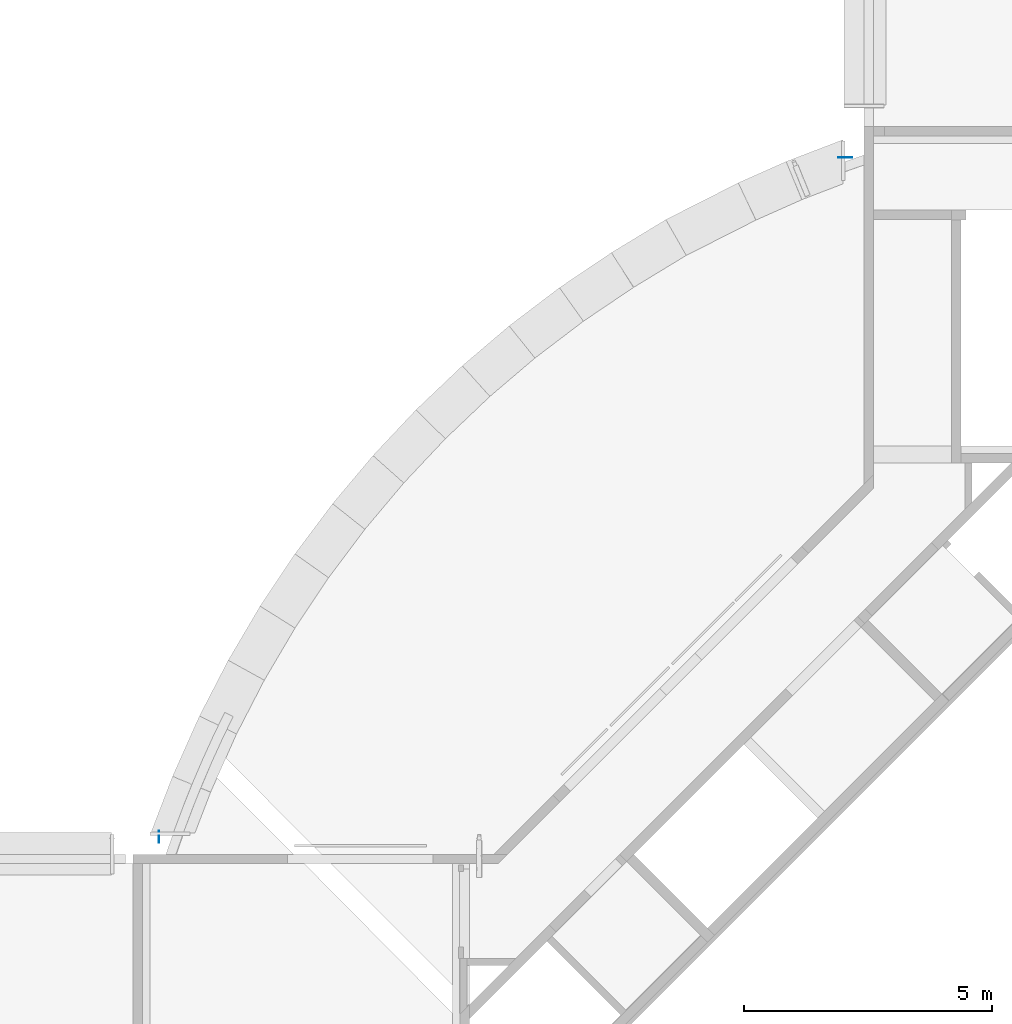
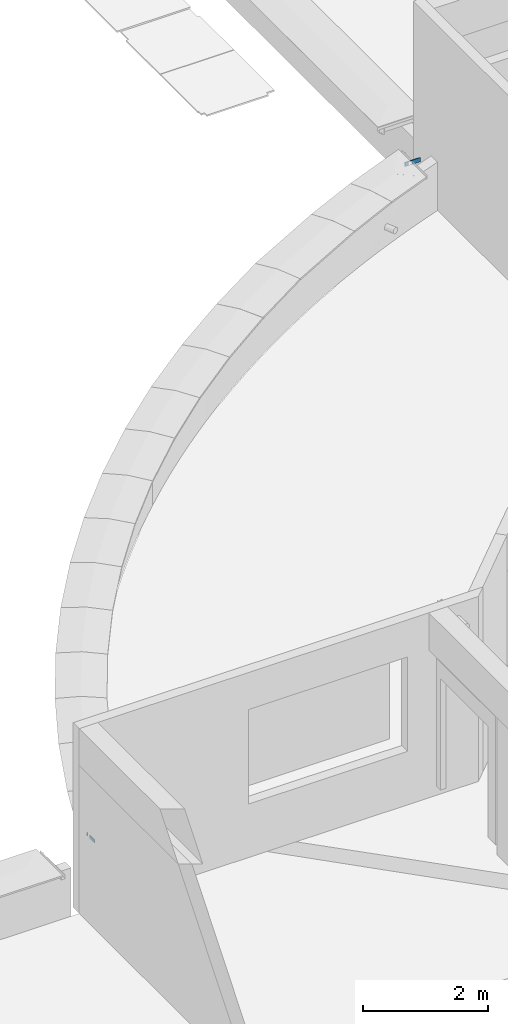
# One storey, part 29 of 38: 2 walls.
"""IFC4X3_ADD2 building model written with IfcOpenShell, lengths in millimetres."""

from ifc_helpers import new_model, si_unit, direction, frame, origin_with_axes, place, context, subcontext, project, spatial, polygons, source, transform, mapped, material, type_object, type_shapes, element, save


model = new_model("IFC4X3_ADD2")

# Units and contexts
model_context = context("Model", 3, precision=1e-05, world=origin_with_axes(), true_north=direction((0.0, 1.0)))
body_context = subcontext(model_context, "Body", "Model", "MODEL_VIEW")
ifc_project = project(units=[si_unit("LENGTHUNIT", "METRE", prefix="MILLI"), si_unit("AREAUNIT", "SQUARE_METRE"), si_unit("VOLUMEUNIT", "CUBIC_METRE"), si_unit("PLANEANGLEUNIT", "RADIAN"), si_unit("TIMEUNIT", "SECOND"), si_unit("MASSUNIT", "GRAM")], contexts=[model_context])

# Site, building, storey
site_placement = place(None, origin_with_axes())
site = spatial("IfcSite", under=ifc_project, at=site_placement, Name="Site", CompositionType="ELEMENT")
building_placement = place(site_placement, origin_with_axes())
building = spatial("IfcBuilding", under=site, at=building_placement, Name="IFC Building Story")
storey_placement = place(building_placement, frame((0.0, 0.0, 10800.0), z_axis=(0.0, 0.0, 1.0), x_axis=(1.0, 0.0, 0.0)))
storey = spatial("IfcBuildingStorey", under=building, at=storey_placement, Name="030", Elevation=10800.0)

# Walls
ifc_material = material(Name="GVH - DUMMY WALL HOST")
wall_type = type_object("IfcWallType", Name="Basic Wall_GVH_DUMMY WAND HOST", PredefinedType="NOTDEFINED")
shared_shape = source(origin_with_axes(), body_context, "Body", "Tessellation", [
    polygons([(0.0, -4.99999999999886, 59.9999999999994), (0.0, -4.99999999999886, 0.0), (147.0, -4.99999999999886, 0.0), (147.0, -4.99999999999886, 59.9999999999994), (0.0, 4.99999999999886, 0.0), (147.0, 4.99999999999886, 0.0), (147.0, 4.99999999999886, 59.9999999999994), (0.0, 4.99999999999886, 59.9999999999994)], [[[1, 2, 3, 4]], [[2, 5, 6, 3]], [[4, 3, 6, 7]], [[2, 1, 8, 5]], [[8, 1, 4, 7]], [[5, 8, 7, 6]]]),
    polygons([(239.999999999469, 4.99999999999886, 59.9999999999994), (239.999999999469, 4.99999999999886, 0.0), (219.000000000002, 4.99999999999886, 0.0), (219.000000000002, 4.99999999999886, 59.9999999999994), (239.999999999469, -4.99999999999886, 59.9999999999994), (239.999999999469, -4.99999999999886, 0.0), (219.000000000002, -4.99999999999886, 59.9999999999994), (219.000000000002, -4.99999999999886, 0.0)], [[[1, 2, 3, 4]], [[5, 6, 2, 1]], [[5, 1, 4, 7]], [[8, 7, 4, 3]], [[2, 6, 8, 3]], [[6, 5, 7, 8]]]),
])
type_shapes(wall_type, [shared_shape])
wall_1_placement = place(storey_placement, frame((-44855.0, 30955.0, 740.0), z_axis=(0.0, 0.0, 1.0), x_axis=(0.0, 1.0, 0.0)))
element("IfcWall", 1, at=wall_1_placement, inside=storey, type_object=wall_type, material=ifc_material, Name="Basic Wall:GVH_DUMMY WAND HOST", ObjectType="Basic Wall:GVH_DUMMY WAND HOST", PredefinedType="NOTDEFINED", context=body_context, shape_type="MappedRepresentation", body=[
    mapped(shared_shape, transform((0.0, 0.0, 0.0))),
])
wall_2_placement = place(storey_placement, frame((0.0, 0.0, -10800.0), z_axis=(0.0, 0.0, 1.0), x_axis=(1.0, 0.0, 0.0)))
element("IfcWall", 2, at=wall_2_placement, inside=storey, Name="Basic Wall:GVH_DUMMY WAND HOST", ObjectType="Basic Wall:GVH_DUMMY WAND HOST", PredefinedType="NOTDEFINED", context=body_context, shape_type="Tessellation", body=[
    polygons([(-31173.0749728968, 44753.5000000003, 11537.0), (-30890.00000000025, 44753.5000000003, 11537.0), (-30890.00000000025, 44753.5000000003, 11620.0), (-31173.0749728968, 44753.5000000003, 11620.0), (-31109.0749728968, 44753.5000000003, 11537.99999999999), (-31109.0749728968, 44753.5000000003, 11609.99999999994), (-31037.0749728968, 44753.5000000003, 11609.99999999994), (-31037.0749728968, 44753.5000000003, 11537.99999999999), (-30890.00000000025, 44763.5000000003, 11537.0), (-31173.0749728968, 44763.5000000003, 11537.0), (-31173.0749728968, 44763.5000000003, 11620.0), (-30890.00000000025, 44763.5000000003, 11620.0), (-31109.0749728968, 44763.5000000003, 11609.99999999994), (-31109.0749728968, 44763.5000000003, 11537.99999999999), (-31037.0749728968, 44763.5000000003, 11537.99999999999), (-31037.0749728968, 44763.5000000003, 11609.99999999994)], [[[8, 5, 1]], [[8, 1, 2]], [[2, 3, 7]], [[2, 7, 8]], [[3, 4, 7]], [[4, 6, 7]], [[4, 1, 5]], [[4, 5, 6]], [[16, 13, 11]], [[16, 11, 12]], [[12, 9, 15]], [[12, 15, 16]], [[9, 14, 15]], [[9, 10, 14]], [[10, 11, 13]], [[10, 13, 14]], [[2, 1, 10, 9]], [[4, 3, 12, 11]], [[1, 4, 11, 10]], [[5, 14, 13, 6]], [[14, 5, 8, 15]], [[15, 8, 7, 16]], [[6, 13, 16, 7]], [[2, 9, 12, 3]]]),
])

save(model, "model.ifc")
